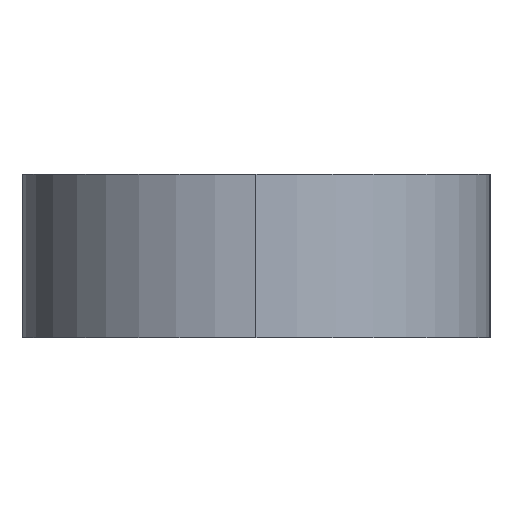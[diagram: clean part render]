
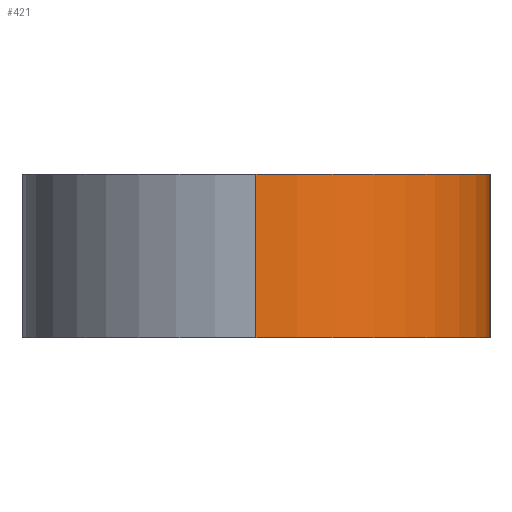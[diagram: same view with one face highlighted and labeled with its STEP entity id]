
A CAD part, left-side view. The second image highlights one B-rep face of the part: STEP entity #421.
In plain terms, the highlighted cylindrical face has radius 12.88 mm (diameter 25.76 mm), a partial arc.
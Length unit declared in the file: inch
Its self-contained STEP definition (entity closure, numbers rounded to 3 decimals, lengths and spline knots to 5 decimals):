
#6 = DIRECTION ( 'NONE',  ( 0., 0., 1. ) ) ;
#12 = FACE_OUTER_BOUND ( 'NONE', #68, .T. ) ;
#15 = VERTEX_POINT ( 'NONE', #23 ) ;
#23 = CARTESIAN_POINT ( 'NONE',  ( 0., -0.50709, 0.35433 ) ) ;
#31 = VECTOR ( 'NONE', #171, 39.37008 ) ;
#38 = VECTOR ( 'NONE', #390, 39.37008 ) ;
#47 = VERTEX_POINT ( 'NONE', #224 ) ;
#61 = CIRCLE ( 'NONE', #276, 0.50709 ) ;
#68 = EDGE_LOOP ( 'NONE', ( #348, #239, #283, #353 ) ) ;
#78 = DIRECTION ( 'NONE',  ( 0., 0., -1. ) ) ;
#91 = LINE ( 'NONE', #361, #38 ) ;
#99 = EDGE_CURVE ( 'NONE', #47, #215, #91, .T. ) ;
#100 = LINE ( 'NONE', #101, #31 ) ;
#101 = CARTESIAN_POINT ( 'NONE',  ( 0., -0.50709, 0.35433 ) ) ;
#118 = DIRECTION ( 'NONE',  ( 1., 0., 0. ) ) ;
#120 = CIRCLE ( 'NONE', #152, 0.50709 ) ;
#142 = EDGE_CURVE ( 'NONE', #215, #370, #120, .T. ) ;
#143 = CYLINDRICAL_SURFACE ( 'NONE', #396, 0.50709 ) ;
#152 = AXIS2_PLACEMENT_3D ( 'NONE', #161, #6, #269 ) ;
#161 = CARTESIAN_POINT ( 'NONE',  ( 0., 0., 0. ) ) ;
#171 = DIRECTION ( 'NONE',  ( 0., 0., -1. ) ) ;
#185 = CARTESIAN_POINT ( 'NONE',  ( 0., -0.50709, 0. ) ) ;
#206 = EDGE_CURVE ( 'NONE', #15, #370, #100, .T. ) ;
#215 = VERTEX_POINT ( 'NONE', #237 ) ;
#219 = CARTESIAN_POINT ( 'NONE',  ( 0., 0., 0.35433 ) ) ;
#224 = CARTESIAN_POINT ( 'NONE',  ( -0.50709, 0., 0.35433 ) ) ;
#237 = CARTESIAN_POINT ( 'NONE',  ( -0.50709, 0., 0. ) ) ;
#239 = ORIENTED_EDGE ( 'NONE', *, *, #99, .T. ) ;
#246 = CARTESIAN_POINT ( 'NONE',  ( 0., 0., 0.35433 ) ) ;
#267 = EDGE_CURVE ( 'NONE', #47, #15, #61, .T. ) ;
#269 = DIRECTION ( 'NONE',  ( 1., 0., 0. ) ) ;
#276 = AXIS2_PLACEMENT_3D ( 'NONE', #219, #347, #118 ) ;
#283 = ORIENTED_EDGE ( 'NONE', *, *, #142, .T. ) ;
#345 = DIRECTION ( 'NONE',  ( -1., 0., 0. ) ) ;
#347 = DIRECTION ( 'NONE',  ( 0., 0., 1. ) ) ;
#348 = ORIENTED_EDGE ( 'NONE', *, *, #267, .F. ) ;
#353 = ORIENTED_EDGE ( 'NONE', *, *, #206, .F. ) ;
#361 = CARTESIAN_POINT ( 'NONE',  ( -0.50709, 0., 0.35433 ) ) ;
#370 = VERTEX_POINT ( 'NONE', #185 ) ;
#390 = DIRECTION ( 'NONE',  ( 0., 0., -1. ) ) ;
#396 = AXIS2_PLACEMENT_3D ( 'NONE', #246, #78, #345 ) ;
#421 = ADVANCED_FACE ( 'NONE', ( #12 ), #143, .T. ) ;
